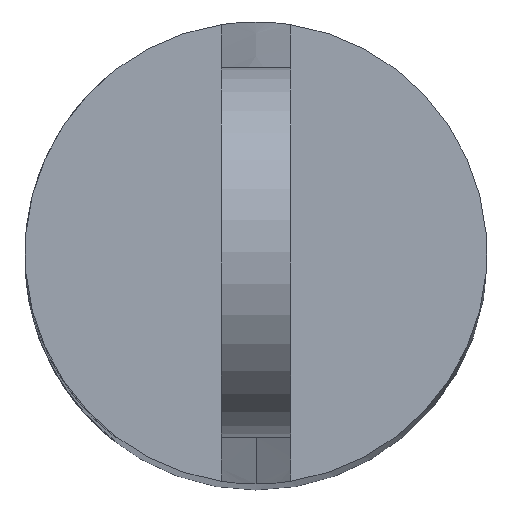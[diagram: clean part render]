
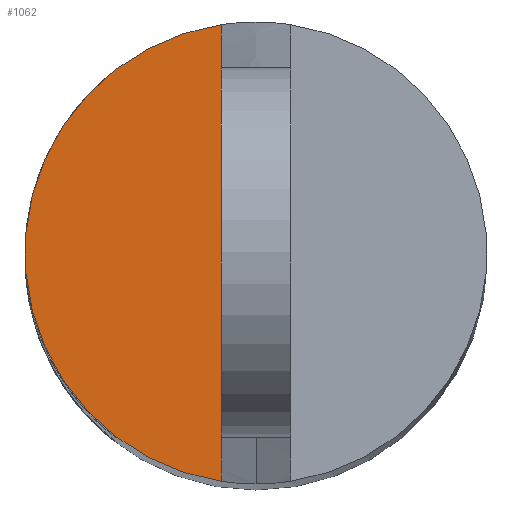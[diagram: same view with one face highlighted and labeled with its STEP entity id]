
A CAD part, top view. The second image highlights one B-rep face of the part: STEP entity #1062.
In plain terms, the highlighted planar face has unit normal (0, 0, 1).
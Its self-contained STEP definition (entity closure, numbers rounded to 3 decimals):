
#85 = VERTEX_POINT('',#86);
#86 = CARTESIAN_POINT('',(19.5,-60.887,-14.));
#93 = EDGE_CURVE('',#94,#85,#96,.T.);
#94 = VERTEX_POINT('',#95);
#95 = CARTESIAN_POINT('',(19.5,-41.113,-14.));
#96 = CIRCLE('',#97,10.);
#97 = AXIS2_PLACEMENT_3D('',#98,#99,#100);
#98 = CARTESIAN_POINT('',(21.,-51.,-14.));
#99 = DIRECTION('',(0.,0.,1.));
#100 = DIRECTION('',(0.,1.,0.));
#1062 = ADVANCED_FACE('',(#1063),#1072,.T.);
#1063 = FACE_BOUND('',#1064,.T.);
#1064 = EDGE_LOOP('',(#1065,#1071));
#1065 = ORIENTED_EDGE('',*,*,#1066,.F.);
#1066 = EDGE_CURVE('',#94,#85,#1067,.T.);
#1067 = LINE('',#1068,#1069);
#1068 = CARTESIAN_POINT('',(19.5,-40.,-14.));
#1069 = VECTOR('',#1070,1.);
#1070 = DIRECTION('',(0.,-1.,0.));
#1071 = ORIENTED_EDGE('',*,*,#93,.T.);
#1072 = PLANE('',#1073);
#1073 = AXIS2_PLACEMENT_3D('',#1074,#1075,#1076);
#1074 = CARTESIAN_POINT('',(9.5,-40.,-14.));
#1075 = DIRECTION('',(0.,0.,1.));
#1076 = DIRECTION('',(0.,-1.,0.));
